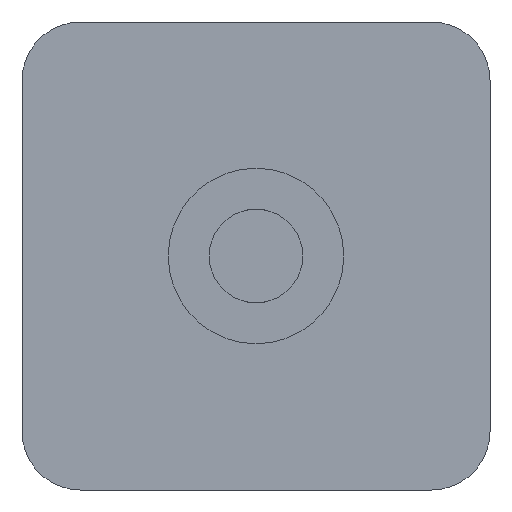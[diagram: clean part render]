
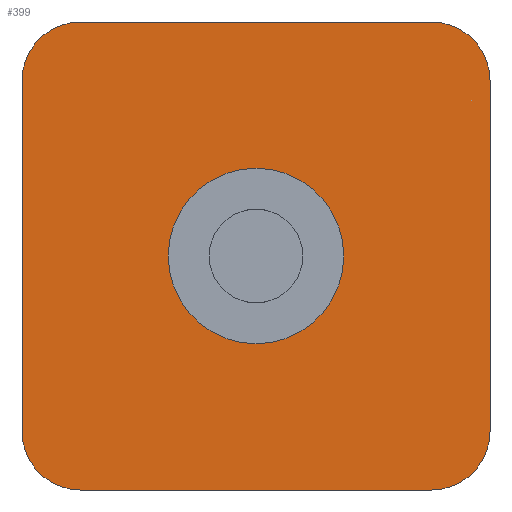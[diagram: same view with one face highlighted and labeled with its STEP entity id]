
A CAD part, front view. The second image highlights one B-rep face of the part: STEP entity #399.
In plain terms, the highlighted planar face has unit normal (0, -1, 0).
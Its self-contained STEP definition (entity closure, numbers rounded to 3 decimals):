
#20=PLANE('',#446);
#35=FACE_BOUND('',#102,.T.);
#48=CIRCLE('',#445,10.);
#49=CIRCLE('',#447,10.);
#50=CIRCLE('',#448,10.);
#51=CIRCLE('',#449,10.);
#52=CIRCLE('',#450,12.25);
#70=FACE_OUTER_BOUND('',#101,.T.);
#101=EDGE_LOOP('',(#313,#314,#315,#316,#317,#318,#319,#320));
#102=EDGE_LOOP('',(#321));
#129=LINE('',#907,#154);
#130=LINE('',#911,#155);
#131=LINE('',#915,#156);
#132=LINE('',#918,#157);
#154=VECTOR('',#520,10.);
#155=VECTOR('',#523,10.);
#156=VECTOR('',#526,10.);
#157=VECTOR('',#529,10.);
#198=VERTEX_POINT('',#900);
#199=VERTEX_POINT('',#902);
#200=VERTEX_POINT('',#906);
#201=VERTEX_POINT('',#908);
#202=VERTEX_POINT('',#910);
#203=VERTEX_POINT('',#912);
#204=VERTEX_POINT('',#914);
#205=VERTEX_POINT('',#916);
#206=VERTEX_POINT('',#919);
#241=EDGE_CURVE('',#198,#199,#48,.T.);
#243=EDGE_CURVE('',#198,#200,#129,.T.);
#244=EDGE_CURVE('',#201,#200,#49,.T.);
#245=EDGE_CURVE('',#201,#202,#130,.T.);
#246=EDGE_CURVE('',#203,#202,#50,.T.);
#247=EDGE_CURVE('',#203,#204,#131,.T.);
#248=EDGE_CURVE('',#205,#204,#51,.T.);
#249=EDGE_CURVE('',#205,#199,#132,.T.);
#250=EDGE_CURVE('',#206,#206,#52,.T.);
#313=ORIENTED_EDGE('',*,*,#241,.F.);
#314=ORIENTED_EDGE('',*,*,#243,.T.);
#315=ORIENTED_EDGE('',*,*,#244,.F.);
#316=ORIENTED_EDGE('',*,*,#245,.T.);
#317=ORIENTED_EDGE('',*,*,#246,.F.);
#318=ORIENTED_EDGE('',*,*,#247,.T.);
#319=ORIENTED_EDGE('',*,*,#248,.F.);
#320=ORIENTED_EDGE('',*,*,#249,.T.);
#321=ORIENTED_EDGE('',*,*,#250,.T.);
#399=ADVANCED_FACE('',(#70,#35),#20,.F.);
#445=AXIS2_PLACEMENT_3D('',#903,#515,#516);
#446=AXIS2_PLACEMENT_3D('',#905,#518,#519);
#447=AXIS2_PLACEMENT_3D('',#909,#521,#522);
#448=AXIS2_PLACEMENT_3D('',#913,#524,#525);
#449=AXIS2_PLACEMENT_3D('',#917,#527,#528);
#450=AXIS2_PLACEMENT_3D('',#920,#530,#531);
#515=DIRECTION('center_axis',(0.,1.,0.));
#516=DIRECTION('ref_axis',(-0.707,0.,0.707));
#518=DIRECTION('center_axis',(0.,1.,0.));
#519=DIRECTION('ref_axis',(0.,0.,1.));
#520=DIRECTION('',(0.,0.,-1.));
#521=DIRECTION('center_axis',(0.,1.,0.));
#522=DIRECTION('ref_axis',(-0.707,0.,-0.707));
#523=DIRECTION('',(1.,0.,0.));
#524=DIRECTION('center_axis',(0.,1.,0.));
#525=DIRECTION('ref_axis',(0.707,0.,-0.707));
#526=DIRECTION('',(0.,0.,1.));
#527=DIRECTION('center_axis',(0.,1.,0.));
#528=DIRECTION('ref_axis',(0.707,0.,0.707));
#529=DIRECTION('',(-1.,0.,0.));
#530=DIRECTION('center_axis',(0.,1.,0.));
#531=DIRECTION('ref_axis',(-1.,0.,0.));
#900=CARTESIAN_POINT('',(-40.,63.,30.));
#902=CARTESIAN_POINT('',(-30.,63.,40.));
#903=CARTESIAN_POINT('Origin',(-30.,63.,30.));
#905=CARTESIAN_POINT('Origin',(0.,63.,0.));
#906=CARTESIAN_POINT('',(-40.,63.,-30.));
#907=CARTESIAN_POINT('',(-40.,63.,-20.));
#908=CARTESIAN_POINT('',(-30.,63.,-40.));
#909=CARTESIAN_POINT('Origin',(-30.,63.,-30.));
#910=CARTESIAN_POINT('',(30.,63.,-40.));
#911=CARTESIAN_POINT('',(20.,63.,-40.));
#912=CARTESIAN_POINT('',(40.,63.,-30.));
#913=CARTESIAN_POINT('Origin',(30.,63.,-30.));
#914=CARTESIAN_POINT('',(40.,63.,30.));
#915=CARTESIAN_POINT('',(40.,63.,20.));
#916=CARTESIAN_POINT('',(30.,63.,40.));
#917=CARTESIAN_POINT('Origin',(30.,63.,30.));
#918=CARTESIAN_POINT('',(-20.,63.,40.));
#919=CARTESIAN_POINT('',(12.25,63.,0.));
#920=CARTESIAN_POINT('Origin',(0.,63.,0.));
